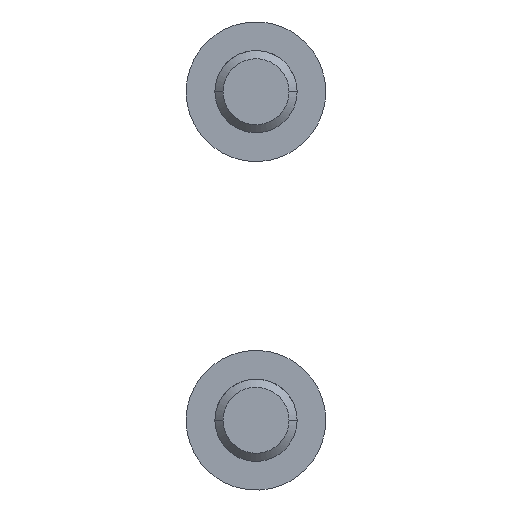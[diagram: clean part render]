
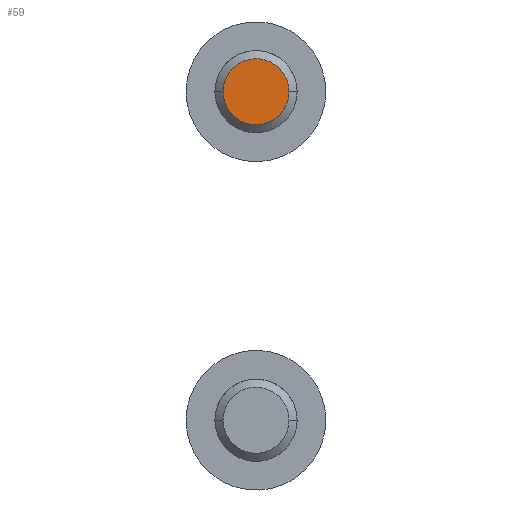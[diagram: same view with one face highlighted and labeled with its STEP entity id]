
A CAD part, left-side view. The second image highlights one B-rep face of the part: STEP entity #59.
In plain terms, the highlighted planar face has unit normal (-1, 0, 0) as drawn and (1, 0, 0) by its records, which use the part's own axes.
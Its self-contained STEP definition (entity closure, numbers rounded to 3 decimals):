
#59=ADVANCED_FACE('',(#109),#1461,.T.);
#109=FACE_OUTER_BOUND('',#159,.T.);
#159=EDGE_LOOP('',(#273,#274));
#273=ORIENTED_EDGE('',*,*,#1035,.F.);
#274=ORIENTED_EDGE('',*,*,#1071,.T.);
#416=(
BOUNDED_CURVE()
B_SPLINE_CURVE(2,(#1875,#1876,#1877,#1878,#1879),.UNSPECIFIED.,.F.,.F.)
B_SPLINE_CURVE_WITH_KNOTS((3,2,3),(0.,3.157,6.313),
 .UNSPECIFIED.)
CURVE()
GEOMETRIC_REPRESENTATION_ITEM()
RATIONAL_B_SPLINE_CURVE((1.,0.707,1.,0.707,1.))
REPRESENTATION_ITEM('')
);
#433=(
BOUNDED_CURVE()
B_SPLINE_CURVE(2,(#2096,#2097,#2098,#2099,#2100),.UNSPECIFIED.,.F.,.F.)
B_SPLINE_CURVE_WITH_KNOTS((3,2,3),(0.,3.157,6.313),
 .UNSPECIFIED.)
CURVE()
GEOMETRIC_REPRESENTATION_ITEM()
RATIONAL_B_SPLINE_CURVE((1.,0.707,1.,0.707,1.))
REPRESENTATION_ITEM('')
);
#434=(
BOUNDED_CURVE()
B_SPLINE_CURVE(2,(#2101,#2102,#2103,#2104,#2105),.UNSPECIFIED.,.F.,.F.)
B_SPLINE_CURVE_WITH_KNOTS((3,2,3),(-6.313,-3.157,0.),
 .UNSPECIFIED.)
CURVE()
GEOMETRIC_REPRESENTATION_ITEM()
RATIONAL_B_SPLINE_CURVE((1.,0.707,1.,0.707,1.))
REPRESENTATION_ITEM('')
);
#435=(
BOUNDED_CURVE()
B_SPLINE_CURVE(2,(#2106,#2107,#2108,#2109,#2110),.UNSPECIFIED.,.F.,.F.)
B_SPLINE_CURVE_WITH_KNOTS((3,2,3),(-6.313,-3.157,0.),
 .UNSPECIFIED.)
CURVE()
GEOMETRIC_REPRESENTATION_ITEM()
RATIONAL_B_SPLINE_CURVE((1.,0.707,1.,0.707,1.))
REPRESENTATION_ITEM('')
);
#496=PCURVE('',#1482,#712);
#561=PCURVE('',#1461,#777);
#562=PCURVE('',#1461,#778);
#566=PCURVE('',#1485,#782);
#712=DEFINITIONAL_REPRESENTATION('',(#1151),#2838);
#777=DEFINITIONAL_REPRESENTATION('',(#433),#2838);
#778=DEFINITIONAL_REPRESENTATION('',(#435),#2838);
#782=DEFINITIONAL_REPRESENTATION('',(#1238),#2838);
#927=SURFACE_CURVE('',#416,(#496,#561),.PCURVE_S1.);
#963=SURFACE_CURVE('',#434,(#562,#566),.PCURVE_S1.);
#1035=EDGE_CURVE('',#1393,#1394,#927,.T.);
#1071=EDGE_CURVE('',#1393,#1394,#963,.T.);
#1151=B_SPLINE_CURVE_WITH_KNOTS('',1,(#1880,#1881),.UNSPECIFIED.,.F.,.F.,
(2,2),(0.,6.313),.UNSPECIFIED.);
#1238=B_SPLINE_CURVE_WITH_KNOTS('',1,(#2122,#2123),.UNSPECIFIED.,.F.,.F.,
(2,2),(-6.313,0.),.UNSPECIFIED.);
#1393=VERTEX_POINT('',#1787);
#1394=VERTEX_POINT('',#1788);
#1461=PLANE('',#1531);
#1482=(
BOUNDED_SURFACE()
B_SPLINE_SURFACE(2,1,((#1636,#1637),(#1638,#1639),(#1640,#1641),(#1642,#1643),
(#1644,#1645),(#1646,#1647),(#1648,#1649),(#1650,#1651),(#1652,#1653)),
 .UNSPECIFIED.,.T.,.F.,.F.)
B_SPLINE_SURFACE_WITH_KNOTS((3,2,2,2,3),(2,2),(0.,1.571,3.142,
4.712,6.283),(0.,3.891),.UNSPECIFIED.)
GEOMETRIC_REPRESENTATION_ITEM()
RATIONAL_B_SPLINE_SURFACE(((1.,1.),(0.707,0.707),
(1.,1.),(0.707,0.707),(1.,1.),(0.707,
0.707),(1.,1.),(0.707,0.707),(1.,1.)))
REPRESENTATION_ITEM('')
SURFACE()
);
#1485=(
BOUNDED_SURFACE()
B_SPLINE_SURFACE(2,1,((#1703,#1704),(#1705,#1706),(#1707,#1708),(#1709,#1710),
(#1711,#1712),(#1713,#1714),(#1715,#1716),(#1717,#1718),(#1719,#1720)),
 .UNSPECIFIED.,.T.,.F.,.F.)
B_SPLINE_SURFACE_WITH_KNOTS((3,2,2,2,3),(2,2),(0.,1.571,3.142,
4.712,6.283),(0.,3.891),.UNSPECIFIED.)
GEOMETRIC_REPRESENTATION_ITEM()
RATIONAL_B_SPLINE_SURFACE(((1.,1.),(0.707,0.707),
(1.,1.),(0.707,0.707),(1.,1.),(0.707,
0.707),(1.,1.),(0.707,0.707),(1.,1.)))
REPRESENTATION_ITEM('')
SURFACE()
);
#1531=AXIS2_PLACEMENT_3D('',#1702,#1563,$);
#1563=DIRECTION('',(1.,0.,0.));
#1636=CARTESIAN_POINT('',(-757.009,300.,10.));
#1637=CARTESIAN_POINT('',(-754.258,300.,7.249));
#1638=CARTESIAN_POINT('',(-757.009,300.,10.));
#1639=CARTESIAN_POINT('',(-754.258,297.249,7.249));
#1640=CARTESIAN_POINT('',(-757.009,300.,10.));
#1641=CARTESIAN_POINT('',(-754.258,297.249,10.));
#1642=CARTESIAN_POINT('',(-757.009,300.,10.));
#1643=CARTESIAN_POINT('',(-754.258,297.249,12.751));
#1644=CARTESIAN_POINT('',(-757.009,300.,10.));
#1645=CARTESIAN_POINT('',(-754.258,300.,12.751));
#1646=CARTESIAN_POINT('',(-757.009,300.,10.));
#1647=CARTESIAN_POINT('',(-754.258,302.751,12.751));
#1648=CARTESIAN_POINT('',(-757.009,300.,10.));
#1649=CARTESIAN_POINT('',(-754.258,302.751,10.));
#1650=CARTESIAN_POINT('',(-757.009,300.,10.));
#1651=CARTESIAN_POINT('',(-754.258,302.751,7.249));
#1652=CARTESIAN_POINT('',(-757.009,300.,10.));
#1653=CARTESIAN_POINT('',(-754.258,300.,7.249));
#1702=CARTESIAN_POINT('',(-755.,297.587,7.587));
#1703=CARTESIAN_POINT('',(-757.009,300.,10.));
#1704=CARTESIAN_POINT('',(-754.258,300.,12.751));
#1705=CARTESIAN_POINT('',(-757.009,300.,10.));
#1706=CARTESIAN_POINT('',(-754.258,302.751,12.751));
#1707=CARTESIAN_POINT('',(-757.009,300.,10.));
#1708=CARTESIAN_POINT('',(-754.258,302.751,10.));
#1709=CARTESIAN_POINT('',(-757.009,300.,10.));
#1710=CARTESIAN_POINT('',(-754.258,302.751,7.249));
#1711=CARTESIAN_POINT('',(-757.009,300.,10.));
#1712=CARTESIAN_POINT('',(-754.258,300.,7.249));
#1713=CARTESIAN_POINT('',(-757.009,300.,10.));
#1714=CARTESIAN_POINT('',(-754.258,297.249,7.249));
#1715=CARTESIAN_POINT('',(-757.009,300.,10.));
#1716=CARTESIAN_POINT('',(-754.258,297.249,10.));
#1717=CARTESIAN_POINT('',(-757.009,300.,10.));
#1718=CARTESIAN_POINT('',(-754.258,297.249,12.751));
#1719=CARTESIAN_POINT('',(-757.009,300.,10.));
#1720=CARTESIAN_POINT('',(-754.258,300.,12.751));
#1787=CARTESIAN_POINT('',(-755.,297.99,10.));
#1788=CARTESIAN_POINT('',(-755.,302.009,10.));
#1875=CARTESIAN_POINT('',(-755.,297.99,10.));
#1876=CARTESIAN_POINT('',(-755.,297.99,12.009));
#1877=CARTESIAN_POINT('',(-755.,300.,12.009));
#1878=CARTESIAN_POINT('',(-755.,302.009,12.009));
#1879=CARTESIAN_POINT('',(-755.,302.009,10.));
#1880=CARTESIAN_POINT('',(1.571,2.842));
#1881=CARTESIAN_POINT('',(4.712,2.842));
#2096=CARTESIAN_POINT('',(-1.005,0.));
#2097=CARTESIAN_POINT('',(-1.005,2.01));
#2098=CARTESIAN_POINT('',(1.005,2.01));
#2099=CARTESIAN_POINT('',(3.014,2.01));
#2100=CARTESIAN_POINT('',(3.014,0.));
#2101=CARTESIAN_POINT('',(-755.,297.99,10.));
#2102=CARTESIAN_POINT('',(-755.,297.99,7.99));
#2103=CARTESIAN_POINT('',(-755.,300.,7.99));
#2104=CARTESIAN_POINT('',(-755.,302.009,7.99));
#2105=CARTESIAN_POINT('',(-755.,302.009,10.));
#2106=CARTESIAN_POINT('',(-1.005,0.));
#2107=CARTESIAN_POINT('',(-1.005,-2.01));
#2108=CARTESIAN_POINT('',(1.005,-2.01));
#2109=CARTESIAN_POINT('',(3.014,-2.01));
#2110=CARTESIAN_POINT('',(3.014,0.));
#2122=CARTESIAN_POINT('',(4.712,2.842));
#2123=CARTESIAN_POINT('',(1.571,2.842));
#2838=(
GEOMETRIC_REPRESENTATION_CONTEXT(2)
PARAMETRIC_REPRESENTATION_CONTEXT()
REPRESENTATION_CONTEXT('pspace','')
);
